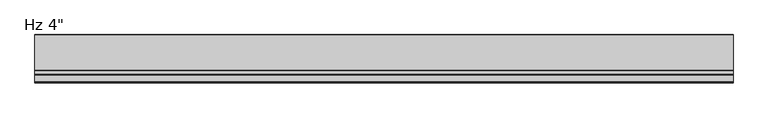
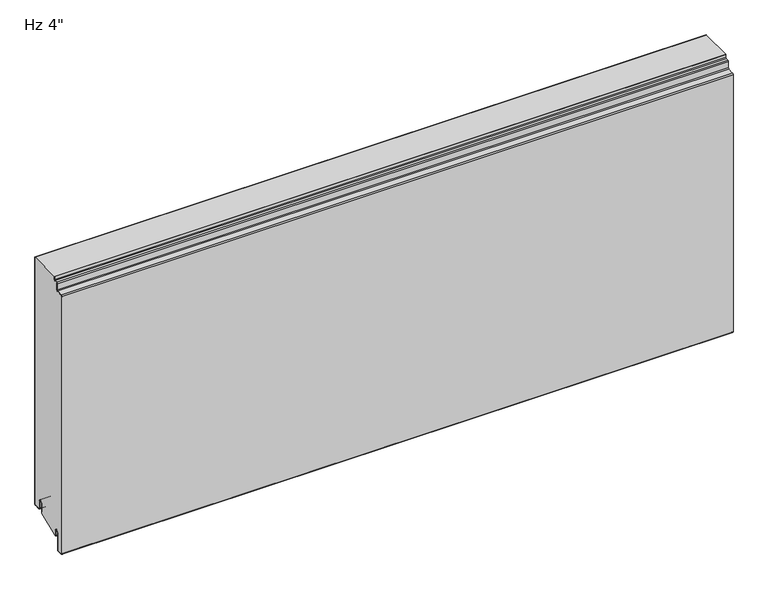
"""IFC4 building model written with IfcOpenShell, lengths in millimetres: plate geometry."""

from ifc_helpers import new_model, si_unit, point, frame, frame_2d, origin, place, context, project, spatial, polyline, circle_curve, trimmed, segment, composite_curve, outline, extrude, source, transform, mapped, element, save


def plate_cf595729(model_context):
    return source(origin(), model_context, "Body", "SweptSolid", [
        extrude(outline(composite_curve([segment(trimmed(circle_curve(frame_2d((-21.43125, 19.05)), 4.96875), [point((-16.4625, 19.05))], [point((-26.4, 19.05))], True, "CARTESIAN"), True, "CONTINUOUS"), segment(polyline([(-26.4, 19.05), (-26.4, -3.1323422), (-74.6157227, -23.01875), (-76.2, -23.01875), (-76.2, -13.5080174), (-76.99375, -13.5080174), (-76.7875, -11.9205174)]), True, "CONTINUOUS"), segment(trimmed(circle_curve(frame_2d((-81.75625, -11.9205174)), 4.96875), [point((-76.7875, -11.9205174))], [point((-86.725, -11.9205174))], True, "CARTESIAN"), True, "CONTINUOUS"), segment(polyline([(-86.725, -11.9205174), (-86.725, -50.1038221)]), True, "CONTINUOUS"), segment(trimmed(circle_curve(frame_2d((-88.10625, -50.1038221)), 1.38125), [point((-86.725, -50.1038221))], [point((-88.033961, -51.4831791))], False, "CARTESIAN"), True, "CONTINUOUS"), segment(polyline([(-88.033961, -51.4831791), (-99.146461, -52.0655606)]), True, "CONTINUOUS"), segment(trimmed(circle_curve(frame_2d((-99.21875, -50.6862035)), 1.38125), [point((-99.146461, -52.0655606))], [point((-100.6, -50.6862035))], False, "CARTESIAN"), True, "CONTINUOUS"), segment(polyline([(-100.6, -50.6862035), (-100.6, 541.4447607)]), True, "CONTINUOUS"), segment(trimmed(circle_curve(frame_2d((-99.21875, 541.4447607)), 1.38125), [point((-100.6, 541.4447607))], [point((-99.291039, 542.8241177))], False, "CARTESIAN"), True, "CONTINUOUS"), segment(polyline([(-99.291039, 542.8241177), (-85.5895807, 543.5421807)]), True, "CONTINUOUS"), segment(trimmed(circle_curve(frame_2d((-85.725, 546.1261347)), 2.5875), [point((-85.5895807, 543.5421807))], [point((-83.1375, 546.1261347))], True, "CARTESIAN"), True, "CONTINUOUS"), segment(polyline([(-83.1375, 546.1261347), (-83.1375, 560.2824411)]), True, "CONTINUOUS"), segment(trimmed(circle_curve(frame_2d((-81.75625, 560.2824411)), 1.38125), [point((-83.1375, 560.2824411))], [point((-81.828539, 561.6617981))], False, "CARTESIAN"), True, "CONTINUOUS"), segment(polyline([(-81.828539, 561.6617981), (-76.0645807, 561.9638744)]), True, "CONTINUOUS"), segment(trimmed(circle_curve(frame_2d((-76.2, 564.5478283)), 2.5875), [point((-76.0645807, 561.9638744))], [point((-73.6125, 564.5478283))], True, "CARTESIAN"), True, "CONTINUOUS"), segment(polyline([(-73.6125, 564.5478283), (-73.6125, 571.2), (-1.0, 571.2), (-1.0, 3.175)]), True, "CONTINUOUS"), segment(trimmed(circle_curve(frame_2d((-2.38125, 3.175)), 1.38125), [point((-1.0, 3.175))], [point((-2.38125, 1.79375))], False, "CARTESIAN"), True, "CONTINUOUS"), segment(polyline([(-2.38125, 1.79375), (-15.08125, 1.79375)]), True, "CONTINUOUS"), segment(trimmed(circle_curve(frame_2d((-15.08125, 3.175)), 1.38125), [point((-15.08125, 1.79375))], [point((-16.4625, 3.175))], False, "CARTESIAN"), True, "CONTINUOUS"), segment(polyline([(-16.4625, 3.175), (-16.4625, 19.05)]), True, "CONTINUOUS")], self_intersect=False)), frame((-730.0, 0.0, 0.0), z_axis=(1.0, 0.0, 0.0), x_axis=(0.0, 1.0, 0.0)), (0.0, 0.0, 1.0), 1460.0),
        extrude(outline(composite_curve([segment(polyline([(-25.4, 0.79375), (-26.4, 0.79375), (-26.4, 19.05)]), True, "CONTINUOUS"), segment(trimmed(circle_curve(frame_2d((-21.43125, 19.05)), 4.96875), [point((-26.4, 19.05))], [point((-16.4625, 19.05))], False, "CARTESIAN"), True, "CONTINUOUS"), segment(polyline([(-16.4625, 19.05), (-16.4625, 3.175)]), True, "CONTINUOUS"), segment(trimmed(circle_curve(frame_2d((-15.08125, 3.175)), 1.38125), [point((-16.4625, 3.175))], [point((-15.08125, 1.79375))], True, "CARTESIAN"), True, "CONTINUOUS"), segment(polyline([(-15.08125, 1.79375), (-2.38125, 1.79375)]), True, "CONTINUOUS"), segment(trimmed(circle_curve(frame_2d((-2.38125, 3.175)), 1.38125), [point((-2.38125, 1.79375))], [point((-1.0, 3.175))], True, "CARTESIAN"), True, "CONTINUOUS"), segment(polyline([(-1.0, 3.175), (-1.0, 571.2), (0.0, 571.2), (0.0, 3.175)]), True, "CONTINUOUS"), segment(trimmed(circle_curve(frame_2d((-2.38125, 3.175)), 2.38125), [point((0.0, 3.175))], [point((-2.38125, 0.79375))], False, "CARTESIAN"), True, "CONTINUOUS"), segment(polyline([(-2.38125, 0.79375), (-15.08125, 0.79375)]), True, "CONTINUOUS"), segment(trimmed(circle_curve(frame_2d((-15.08125, 3.175)), 2.38125), [point((-15.08125, 0.79375))], [point((-17.4625, 3.175))], False, "CARTESIAN"), True, "CONTINUOUS"), segment(polyline([(-17.4625, 3.175), (-17.4625, 19.05)]), True, "CONTINUOUS"), segment(trimmed(circle_curve(frame_2d((-21.43125, 19.05)), 3.96875), [point((-17.4625, 19.05))], [point((-25.4, 19.05))], True, "CARTESIAN"), True, "CONTINUOUS"), segment(polyline([(-25.4, 19.05), (-25.4, 0.79375)]), True, "CONTINUOUS")], self_intersect=False)), frame((-730.0, 0.0, 0.0), z_axis=(1.0, 0.0, 0.0), x_axis=(0.0, 1.0, 0.0)), (0.0, 0.0, 1.0), 1460.0),
        extrude(outline(composite_curve([segment(trimmed(circle_curve(frame_2d((-76.99375, -23.2314549)), 0.79375), [point((-76.2, -23.2314549))], [point((-77.7875, -23.2314549))], False, "CARTESIAN"), True, "CONTINUOUS"), segment(polyline([(-77.7875, -23.2314549), (-77.7875, -11.9205174)]), True, "CONTINUOUS"), segment(trimmed(circle_curve(frame_2d((-81.75625, -11.9205174)), 3.96875), [point((-77.7875, -11.9205174))], [point((-85.725, -11.9205174))], True, "CARTESIAN"), True, "CONTINUOUS"), segment(polyline([(-85.725, -11.9205174), (-85.725, -50.1038221)]), True, "CONTINUOUS"), segment(trimmed(circle_curve(frame_2d((-88.10625, -50.1038221)), 2.38125), [point((-85.725, -50.1038221))], [point((-87.981625, -52.4818086))], False, "CARTESIAN"), True, "CONTINUOUS"), segment(polyline([(-87.981625, -52.4818086), (-99.094125, -53.0641901)]), True, "CONTINUOUS"), segment(trimmed(circle_curve(frame_2d((-99.21875, -50.6862035)), 2.38125), [point((-99.094125, -53.0641901))], [point((-101.6, -50.6862035))], False, "CARTESIAN"), True, "CONTINUOUS"), segment(polyline([(-101.6, -50.6862035), (-101.6, 541.4447607)]), True, "CONTINUOUS"), segment(trimmed(circle_curve(frame_2d((-99.21875, 541.4447607)), 2.38125), [point((-101.6, 541.4447607))], [point((-99.343375, 543.8227473))], False, "CARTESIAN"), True, "CONTINUOUS"), segment(polyline([(-99.343375, 543.8227473), (-85.6419167, 544.5408103)]), True, "CONTINUOUS"), segment(trimmed(circle_curve(frame_2d((-85.725, 546.1261347)), 1.5875), [point((-85.6419167, 544.5408103))], [point((-84.1375, 546.1261347))], True, "CARTESIAN"), True, "CONTINUOUS"), segment(polyline([(-84.1375, 546.1261347), (-84.1375, 560.2824411)]), True, "CONTINUOUS"), segment(trimmed(circle_curve(frame_2d((-81.75625, 560.2824411)), 2.38125), [point((-84.1375, 560.2824411))], [point((-81.880875, 562.6604276))], False, "CARTESIAN"), True, "CONTINUOUS"), segment(polyline([(-81.880875, 562.6604276), (-76.1169167, 562.9625039)]), True, "CONTINUOUS"), segment(trimmed(circle_curve(frame_2d((-76.2, 564.5478283)), 1.5875), [point((-76.1169167, 562.9625039))], [point((-74.6125, 564.5478283))], True, "CARTESIAN"), True, "CONTINUOUS"), segment(polyline([(-74.6125, 564.5478283), (-74.6125, 571.2), (-73.6125, 571.2), (-73.6125, 564.5478283)]), True, "CONTINUOUS"), segment(trimmed(circle_curve(frame_2d((-76.2, 564.5478283)), 2.5875), [point((-73.6125, 564.5478283))], [point((-76.0645807, 561.9638744))], False, "CARTESIAN"), True, "CONTINUOUS"), segment(polyline([(-76.0645807, 561.9638744), (-81.828539, 561.6617981)]), True, "CONTINUOUS"), segment(trimmed(circle_curve(frame_2d((-81.75625, 560.2824411)), 1.38125), [point((-81.828539, 561.6617981))], [point((-83.1375, 560.2824411))], True, "CARTESIAN"), True, "CONTINUOUS"), segment(polyline([(-83.1375, 560.2824411), (-83.1375, 546.1261347)]), True, "CONTINUOUS"), segment(trimmed(circle_curve(frame_2d((-85.725, 546.1261347)), 2.5875), [point((-83.1375, 546.1261347))], [point((-85.5895807, 543.5421807))], False, "CARTESIAN"), True, "CONTINUOUS"), segment(polyline([(-85.5895807, 543.5421807), (-99.291039, 542.8241177)]), True, "CONTINUOUS"), segment(trimmed(circle_curve(frame_2d((-99.21875, 541.4447607)), 1.38125), [point((-99.291039, 542.8241177))], [point((-100.6, 541.4447607))], True, "CARTESIAN"), True, "CONTINUOUS"), segment(polyline([(-100.6, 541.4447607), (-100.6, -50.6862035)]), True, "CONTINUOUS"), segment(trimmed(circle_curve(frame_2d((-99.21875, -50.6862035)), 1.38125), [point((-100.6, -50.6862035))], [point((-99.146461, -52.0655606))], True, "CARTESIAN"), True, "CONTINUOUS"), segment(polyline([(-99.146461, -52.0655606), (-88.033961, -51.4831791)]), True, "CONTINUOUS"), segment(trimmed(circle_curve(frame_2d((-88.10625, -50.1038221)), 1.38125), [point((-88.033961, -51.4831791))], [point((-86.725, -50.1038221))], True, "CARTESIAN"), True, "CONTINUOUS"), segment(polyline([(-86.725, -50.1038221), (-86.725, -11.9205174)]), True, "CONTINUOUS"), segment(trimmed(circle_curve(frame_2d((-81.75625, -11.9205174)), 4.96875), [point((-86.725, -11.9205174))], [point((-76.7875, -11.9205174))], False, "CARTESIAN"), True, "CONTINUOUS"), segment(polyline([(-76.7875, -11.9205174), (-76.99375, -13.5080174), (-76.2, -13.5080174), (-76.2, -23.2314549)]), True, "CONTINUOUS")], self_intersect=False)), frame((-730.0, 0.0, 0.0), z_axis=(1.0, 0.0, 0.0), x_axis=(0.0, 1.0, 0.0)), (0.0, 0.0, 1.0), 1460.0),
    ])


if __name__ == "__main__":
    model = new_model("IFC4")
    model_context = context("Model", 3, world=origin())
    ifc_project = project(units=[si_unit("LENGTHUNIT", "METRE", prefix="MILLI")], contexts=[model_context])
    site = spatial("IfcSite", under=ifc_project)
    building = spatial("IfcBuilding", under=site)
    placement = place(None, origin())
    plate_shape = plate_cf595729(model_context)
    element("IfcPlate", 1, ObjectType="KIP-24-DWHR-R19-CP-Hz-F : Hz 4\"", at=placement, inside=building, context=model_context, shape_type="MappedRepresentation", body=[
        mapped(plate_shape, transform((0.0, 0.0, 0.0), x_axis=(1.0, 0.0, 0.0), y_axis=(0.0, 1.0, 0.0), z_axis=(0.0, 0.0, 1.0))),
    ])
    save(model, "model.ifc")
